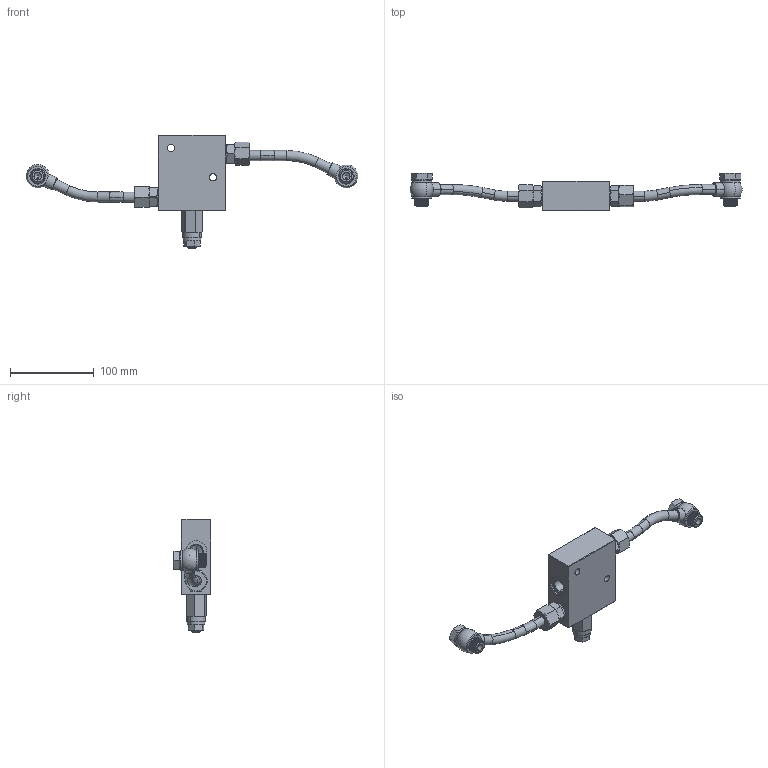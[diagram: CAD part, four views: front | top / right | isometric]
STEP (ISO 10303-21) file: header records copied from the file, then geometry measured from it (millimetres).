
FILE_DESCRIPTION (( 'STEP AP203' ), '1' );
FILE_NAME ('BL38SCB60-210-350-350EAT.STEP', '2022-02-28T08:47:00', ( '' ), ( '' ), 'SwSTEP 2.0', 'SolidWorks 2021', '' );
FILE_SCHEMA (( 'CONFIG_CONTROL_DESIGN' ));
Length unit declared in the file: millimetre
Products named in the file (11): VIS CREUSE; BLOC SIMPLE + CARTOUCHE_CARTOUCHE.EATON.; BLOC SIMPLE BCB11A38; TH 750 BLOC SIMPLE_E368; BL38SCB60-210-350-350EAT; BJC1238; BAGUE BS; UM12.38 DROITE; CARTOUCHE CB60-130 EATON; ECM12S; OLM12
Assembly tree (19 placements, depth 3):
  BL38SCB60-210-350-350EAT
    BLOC SIMPLE + CARTOUCHE_CARTOUCHE.EATON.
      BLOC SIMPLE BCB11A38
      CARTOUCHE CB60-130 EATON
    VIS CREUSE  x2
    BAGUE BS  x4
    BJC1238  x2
    UM12.38 DROITE  x2
    ECM12S  x2
    TH 750 BLOC SIMPLE_E368  x2
    OLM12  x2
Bounding box: 395.99 x 44.93 x 135 mm (x, y, z)
Volume: 310873.5 mm3; surface area: 93895.1 mm2
Topology: 18 solids, 18 shells, 1179 faces, 2908 edges, 1826 vertices
Faces by surface type: plane 397, cylinder 288, bspline 252, cone 212, torus 26, sphere 4
Entity records: 44891 total; most frequent: CARTESIAN_POINT 23204, ORIENTED_EDGE 4596, DIRECTION 3453, EDGE_CURVE 2298, VERTEX_POINT 1462, VECTOR 1193, LINE 1193, AXIS2_PLACEMENT_3D 1130
